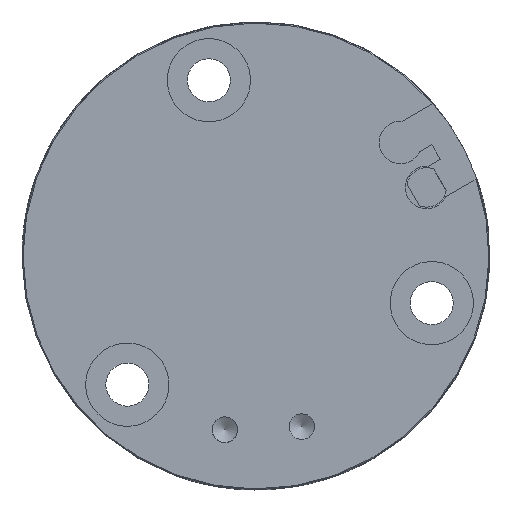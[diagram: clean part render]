
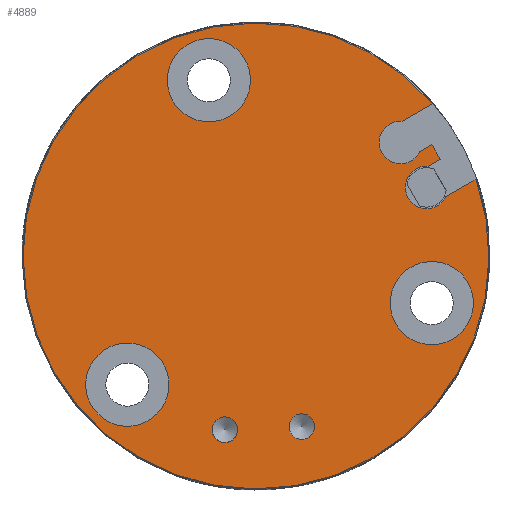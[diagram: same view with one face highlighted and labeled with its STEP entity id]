
A CAD part, front view. The second image highlights one B-rep face of the part: STEP entity #4889.
In plain terms, the highlighted planar face has unit normal (0, -1, 0).
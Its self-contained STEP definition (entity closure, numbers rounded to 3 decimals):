
#111=PLANE('',#6061);
#319=LINE('',#8166,#801);
#320=LINE('',#8170,#802);
#321=LINE('',#8172,#803);
#322=LINE('',#8174,#804);
#323=LINE('',#8178,#805);
#801=VECTOR('',#6585,1000.);
#802=VECTOR('',#6588,1000.);
#803=VECTOR('',#6589,1000.);
#804=VECTOR('',#6590,1000.);
#805=VECTOR('',#6593,1000.);
#1337=ORIENTED_EDGE('',*,*,#2704,.F.);
#1338=ORIENTED_EDGE('',*,*,#2705,.F.);
#1339=ORIENTED_EDGE('',*,*,#2706,.F.);
#1340=ORIENTED_EDGE('',*,*,#2707,.F.);
#1341=ORIENTED_EDGE('',*,*,#2708,.F.);
#1342=ORIENTED_EDGE('',*,*,#2709,.F.);
#1343=ORIENTED_EDGE('',*,*,#2710,.T.);
#1344=ORIENTED_EDGE('',*,*,#2711,.T.);
#1345=ORIENTED_EDGE('',*,*,#2712,.T.);
#1346=ORIENTED_EDGE('',*,*,#2713,.T.);
#1347=ORIENTED_EDGE('',*,*,#2714,.T.);
#1348=ORIENTED_EDGE('',*,*,#2715,.T.);
#1349=ORIENTED_EDGE('',*,*,#2702,.T.);
#2702=EDGE_CURVE('',#3385,#3384,#3855,.T.);
#2704=EDGE_CURVE('',#3386,#3386,#3856,.T.);
#2705=EDGE_CURVE('',#3387,#3387,#3857,.T.);
#2706=EDGE_CURVE('',#3388,#3388,#3858,.T.);
#2707=EDGE_CURVE('',#3389,#3389,#3859,.T.);
#2708=EDGE_CURVE('',#3390,#3390,#3860,.T.);
#2709=EDGE_CURVE('',#3391,#3384,#319,.T.);
#2710=EDGE_CURVE('',#3391,#3392,#3861,.T.);
#2711=EDGE_CURVE('',#3392,#3393,#320,.T.);
#2712=EDGE_CURVE('',#3393,#3394,#321,.T.);
#2713=EDGE_CURVE('',#3394,#3395,#322,.T.);
#2714=EDGE_CURVE('',#3395,#3396,#3862,.T.);
#2715=EDGE_CURVE('',#3396,#3385,#323,.T.);
#3384=VERTEX_POINT('',#8148);
#3385=VERTEX_POINT('',#8150);
#3386=VERTEX_POINT('',#8157);
#3387=VERTEX_POINT('',#8159);
#3388=VERTEX_POINT('',#8161);
#3389=VERTEX_POINT('',#8163);
#3390=VERTEX_POINT('',#8165);
#3391=VERTEX_POINT('',#8167);
#3392=VERTEX_POINT('',#8169);
#3393=VERTEX_POINT('',#8171);
#3394=VERTEX_POINT('',#8173);
#3395=VERTEX_POINT('',#8175);
#3396=VERTEX_POINT('',#8177);
#3855=CIRCLE('',#6060,22.4);
#3856=CIRCLE('',#6062,4.);
#3857=CIRCLE('',#6063,4.);
#3858=CIRCLE('',#6064,4.);
#3859=CIRCLE('',#6065,1.23);
#3860=CIRCLE('',#6066,1.23);
#3861=CIRCLE('',#6067,2.05);
#3862=CIRCLE('',#6068,2.05);
#4036=EDGE_LOOP('',(#1337));
#4037=EDGE_LOOP('',(#1338));
#4038=EDGE_LOOP('',(#1339));
#4039=EDGE_LOOP('',(#1340));
#4040=EDGE_LOOP('',(#1341));
#4041=EDGE_LOOP('',(#1342,#1343,#1344,#1345,#1346,#1347,#1348,#1349));
#4429=FACE_BOUND('',#4036,.T.);
#4430=FACE_BOUND('',#4037,.T.);
#4431=FACE_BOUND('',#4038,.T.);
#4432=FACE_BOUND('',#4039,.T.);
#4433=FACE_BOUND('',#4040,.T.);
#4434=FACE_BOUND('',#4041,.T.);
#4889=ADVANCED_FACE('',(#4429,#4430,#4431,#4432,#4433,#4434),#111,.F.);
#6060=AXIS2_PLACEMENT_3D('',#8149,#6571,#6572);
#6061=AXIS2_PLACEMENT_3D('',#8155,#6573,#6574);
#6062=AXIS2_PLACEMENT_3D('',#8156,#6575,#6576);
#6063=AXIS2_PLACEMENT_3D('',#8158,#6577,#6578);
#6064=AXIS2_PLACEMENT_3D('',#8160,#6579,#6580);
#6065=AXIS2_PLACEMENT_3D('',#8162,#6581,#6582);
#6066=AXIS2_PLACEMENT_3D('',#8164,#6583,#6584);
#6067=AXIS2_PLACEMENT_3D('',#8168,#6586,#6587);
#6068=AXIS2_PLACEMENT_3D('',#8176,#6591,#6592);
#6571=DIRECTION('',(0.,-1.,0.));
#6572=DIRECTION('',(0.,0.,-1.));
#6573=DIRECTION('',(0.,1.,0.));
#6574=DIRECTION('',(0.,0.,1.));
#6575=DIRECTION('',(0.,-1.,0.));
#6576=DIRECTION('',(0.,0.,-1.));
#6577=DIRECTION('',(0.,-1.,0.));
#6578=DIRECTION('',(0.,0.,-1.));
#6579=DIRECTION('',(0.,-1.,0.));
#6580=DIRECTION('',(0.,0.,-1.));
#6581=DIRECTION('',(0.,-1.,0.));
#6582=DIRECTION('',(0.,0.,-1.));
#6583=DIRECTION('',(0.,-1.,0.));
#6584=DIRECTION('',(1.,0.,0.));
#6585=DIRECTION('',(-0.259,0.,-0.966));
#6586=DIRECTION('',(0.,1.,0.));
#6587=DIRECTION('',(1.,0.,0.));
#6588=DIRECTION('',(-0.259,0.,-0.966));
#6589=DIRECTION('',(0.966,0.,-0.259));
#6590=DIRECTION('',(0.259,0.,0.966));
#6591=DIRECTION('',(0.,1.,0.));
#6592=DIRECTION('',(1.,0.,0.));
#6593=DIRECTION('',(-0.259,0.,-0.966));
#8148=CARTESIAN_POINT('',(-9.752,0.,-20.166));
#8149=CARTESIAN_POINT('',(0.,0.,0.));
#8150=CARTESIAN_POINT('',(-1.638,0.,-22.34));
#8155=CARTESIAN_POINT('',(22.4,0.,0.));
#8156=CARTESIAN_POINT('',(15.153,0.,-8.747));
#8157=CARTESIAN_POINT('',(15.153,0.,-12.747));
#8158=CARTESIAN_POINT('',(-15.153,0.,-8.747));
#8159=CARTESIAN_POINT('',(-15.153,0.,-12.747));
#8160=CARTESIAN_POINT('',(0.,0.,17.494));
#8161=CARTESIAN_POINT('',(0.,0.,13.494));
#8162=CARTESIAN_POINT('',(-14.708,0.,8.485));
#8163=CARTESIAN_POINT('',(-14.708,0.,7.256));
#8164=CARTESIAN_POINT('',(-9.687,0.,13.93));
#8165=CARTESIAN_POINT('',(-8.458,0.,13.93));
#8166=CARTESIAN_POINT('',(-2.556,0.,6.687));
#8167=CARTESIAN_POINT('',(-8.881,0.,-16.918));
#8168=CARTESIAN_POINT('',(-6.94,0.,-16.26));
#8169=CARTESIAN_POINT('',(-5.601,0.,-17.812));
#8170=CARTESIAN_POINT('',(-5.601,0.,-17.812));
#8171=CARTESIAN_POINT('',(-5.949,0.,-19.111));
#8172=CARTESIAN_POINT('',(-5.949,0.,-19.111));
#8173=CARTESIAN_POINT('',(-4.404,0.,-19.526));
#8174=CARTESIAN_POINT('',(-4.404,0.,-19.526));
#8175=CARTESIAN_POINT('',(-4.051,0.,-18.21));
#8176=CARTESIAN_POINT('',(-2.11,0.,-17.55));
#8177=CARTESIAN_POINT('',(-0.77,0.,-19.101));
#8178=CARTESIAN_POINT('',(-0.77,0.,-19.101));
